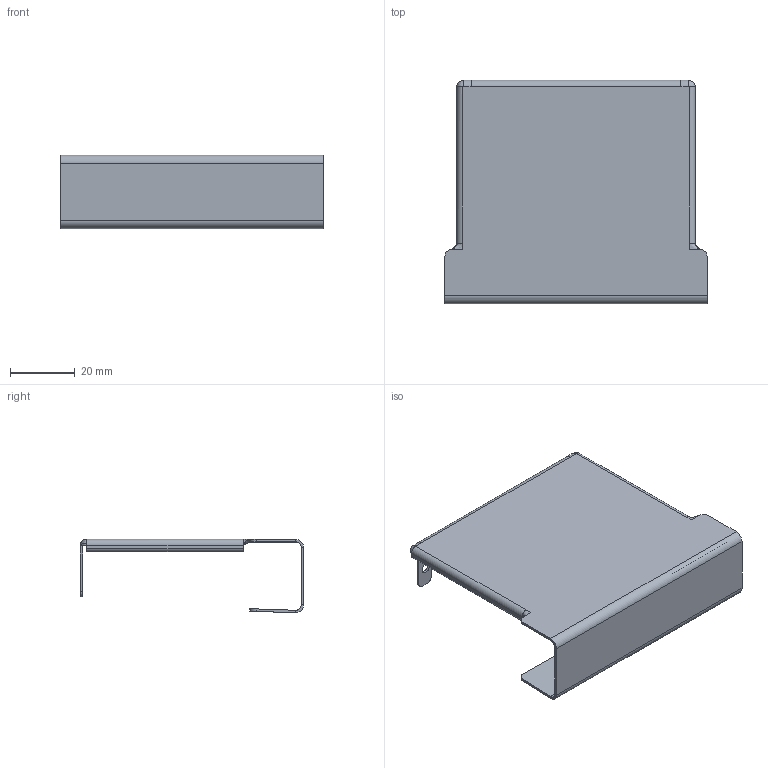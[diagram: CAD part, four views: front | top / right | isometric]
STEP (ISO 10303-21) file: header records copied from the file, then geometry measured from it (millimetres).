
FILE_DESCRIPTION((''),'2;1');
FILE_NAME('CU_CRIO_MOD_BLANK_COVER_ONLY','2016-06-08T',('dkendric'),(''),'CREO PARAMETRIC BY PTC INC, 2015380','CREO PARAMETRIC BY PTC INC, 2015380','');
FILE_SCHEMA(('CONFIG_CONTROL_DESIGN'));
Length unit declared in the file: inch
Products named in the file (1): CU_CRIO_MOD_BLANK_COVER_ONLY
Bounding box: 80.75 x 68.83 x 22.64 mm (x, y, z)
Volume: 7020 mm3; surface area: 28121.7 mm2
Topology: 7 solids, 8 shells, 180 faces, 408 edges, 240 vertices
Faces by surface type: plane 102, cylinder 48, bspline 30
Entity records: 6390 total; most frequent: CARTESIAN_POINT 2471, ORIENTED_EDGE 808, DIRECTION 762, EDGE_CURVE 404, AXIS2_PLACEMENT_3D 255, VECTOR 252, LINE 252, VERTEX_POINT 240
